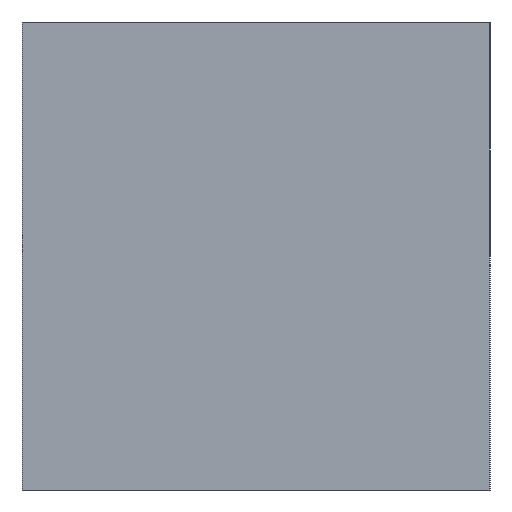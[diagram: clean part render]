
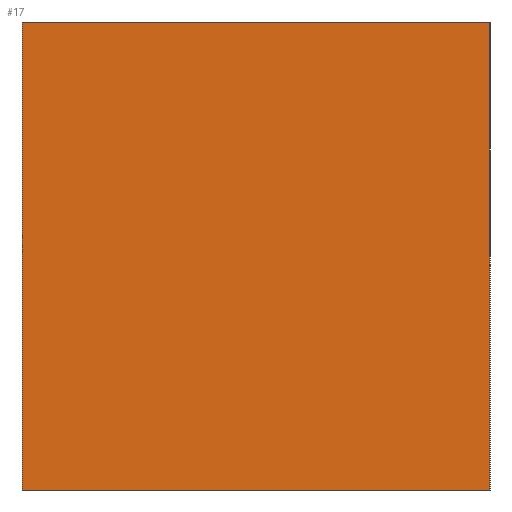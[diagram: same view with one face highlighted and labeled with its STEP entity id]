
A CAD part, left-side view. The second image highlights one B-rep face of the part: STEP entity #17.
In plain terms, the highlighted planar face has unit normal (-1, 0, 0).
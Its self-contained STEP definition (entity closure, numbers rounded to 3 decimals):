
#17 = ADVANCED_FACE('',(#18),#32,.F.);
#18 = FACE_BOUND('',#19,.F.);
#19 = EDGE_LOOP('',(#20,#55,#83,#111));
#20 = ORIENTED_EDGE('',*,*,#21,.F.);
#21 = EDGE_CURVE('',#22,#24,#26,.T.);
#22 = VERTEX_POINT('',#23);
#23 = CARTESIAN_POINT('',(700.,-410.,1160.));
#24 = VERTEX_POINT('',#25);
#25 = CARTESIAN_POINT('',(700.,-410.,1280.));
#26 = SURFACE_CURVE('',#27,(#31,#43),.PCURVE_S1.);
#27 = LINE('',#28,#29);
#28 = CARTESIAN_POINT('',(700.,-410.,1160.));
#29 = VECTOR('',#30,1.);
#30 = DIRECTION('',(0.,0.,1.));
#31 = PCURVE('',#32,#37);
#32 = PLANE('',#33);
#33 = AXIS2_PLACEMENT_3D('',#34,#35,#36);
#34 = CARTESIAN_POINT('',(700.,-410.,1160.));
#35 = DIRECTION('',(1.,0.,-0.));
#36 = DIRECTION('',(0.,0.,1.));
#37 = DEFINITIONAL_REPRESENTATION('',(#38),#42);
#38 = LINE('',#39,#40);
#39 = CARTESIAN_POINT('',(0.,0.));
#40 = VECTOR('',#41,1.);
#41 = DIRECTION('',(1.,0.));
#42 = ( GEOMETRIC_REPRESENTATION_CONTEXT(2) 
PARAMETRIC_REPRESENTATION_CONTEXT() REPRESENTATION_CONTEXT('2D SPACE',''
  ) );
#43 = PCURVE('',#44,#49);
#44 = PLANE('',#45);
#45 = AXIS2_PLACEMENT_3D('',#46,#47,#48);
#46 = CARTESIAN_POINT('',(700.,-410.,1160.));
#47 = DIRECTION('',(-0.,1.,0.));
#48 = DIRECTION('',(0.,0.,1.));
#49 = DEFINITIONAL_REPRESENTATION('',(#50),#54);
#50 = LINE('',#51,#52);
#51 = CARTESIAN_POINT('',(0.,0.));
#52 = VECTOR('',#53,1.);
#53 = DIRECTION('',(1.,0.));
#54 = ( GEOMETRIC_REPRESENTATION_CONTEXT(2) 
PARAMETRIC_REPRESENTATION_CONTEXT() REPRESENTATION_CONTEXT('2D SPACE',''
  ) );
#55 = ORIENTED_EDGE('',*,*,#56,.T.);
#56 = EDGE_CURVE('',#22,#57,#59,.T.);
#57 = VERTEX_POINT('',#58);
#58 = CARTESIAN_POINT('',(700.,-290.,1160.));
#59 = SURFACE_CURVE('',#60,(#64,#71),.PCURVE_S1.);
#60 = LINE('',#61,#62);
#61 = CARTESIAN_POINT('',(700.,-410.,1160.));
#62 = VECTOR('',#63,1.);
#63 = DIRECTION('',(-0.,1.,0.));
#64 = PCURVE('',#32,#65);
#65 = DEFINITIONAL_REPRESENTATION('',(#66),#70);
#66 = LINE('',#67,#68);
#67 = CARTESIAN_POINT('',(0.,0.));
#68 = VECTOR('',#69,1.);
#69 = DIRECTION('',(0.,-1.));
#70 = ( GEOMETRIC_REPRESENTATION_CONTEXT(2) 
PARAMETRIC_REPRESENTATION_CONTEXT() REPRESENTATION_CONTEXT('2D SPACE',''
  ) );
#71 = PCURVE('',#72,#77);
#72 = PLANE('',#73);
#73 = AXIS2_PLACEMENT_3D('',#74,#75,#76);
#74 = CARTESIAN_POINT('',(700.,-410.,1160.));
#75 = DIRECTION('',(0.,0.,1.));
#76 = DIRECTION('',(1.,0.,-0.));
#77 = DEFINITIONAL_REPRESENTATION('',(#78),#82);
#78 = LINE('',#79,#80);
#79 = CARTESIAN_POINT('',(0.,0.));
#80 = VECTOR('',#81,1.);
#81 = DIRECTION('',(0.,1.));
#82 = ( GEOMETRIC_REPRESENTATION_CONTEXT(2) 
PARAMETRIC_REPRESENTATION_CONTEXT() REPRESENTATION_CONTEXT('2D SPACE',''
  ) );
#83 = ORIENTED_EDGE('',*,*,#84,.T.);
#84 = EDGE_CURVE('',#57,#85,#87,.T.);
#85 = VERTEX_POINT('',#86);
#86 = CARTESIAN_POINT('',(700.,-290.,1280.));
#87 = SURFACE_CURVE('',#88,(#92,#99),.PCURVE_S1.);
#88 = LINE('',#89,#90);
#89 = CARTESIAN_POINT('',(700.,-290.,1160.));
#90 = VECTOR('',#91,1.);
#91 = DIRECTION('',(0.,0.,1.));
#92 = PCURVE('',#32,#93);
#93 = DEFINITIONAL_REPRESENTATION('',(#94),#98);
#94 = LINE('',#95,#96);
#95 = CARTESIAN_POINT('',(0.,-120.));
#96 = VECTOR('',#97,1.);
#97 = DIRECTION('',(1.,0.));
#98 = ( GEOMETRIC_REPRESENTATION_CONTEXT(2) 
PARAMETRIC_REPRESENTATION_CONTEXT() REPRESENTATION_CONTEXT('2D SPACE',''
  ) );
#99 = PCURVE('',#100,#105);
#100 = PLANE('',#101);
#101 = AXIS2_PLACEMENT_3D('',#102,#103,#104);
#102 = CARTESIAN_POINT('',(700.,-290.,1160.));
#103 = DIRECTION('',(-0.,1.,0.));
#104 = DIRECTION('',(0.,0.,1.));
#105 = DEFINITIONAL_REPRESENTATION('',(#106),#110);
#106 = LINE('',#107,#108);
#107 = CARTESIAN_POINT('',(0.,0.));
#108 = VECTOR('',#109,1.);
#109 = DIRECTION('',(1.,0.));
#110 = ( GEOMETRIC_REPRESENTATION_CONTEXT(2) 
PARAMETRIC_REPRESENTATION_CONTEXT() REPRESENTATION_CONTEXT('2D SPACE',''
  ) );
#111 = ORIENTED_EDGE('',*,*,#112,.F.);
#112 = EDGE_CURVE('',#24,#85,#113,.T.);
#113 = SURFACE_CURVE('',#114,(#118,#125),.PCURVE_S1.);
#114 = LINE('',#115,#116);
#115 = CARTESIAN_POINT('',(700.,-410.,1280.));
#116 = VECTOR('',#117,1.);
#117 = DIRECTION('',(-0.,1.,0.));
#118 = PCURVE('',#32,#119);
#119 = DEFINITIONAL_REPRESENTATION('',(#120),#124);
#120 = LINE('',#121,#122);
#121 = CARTESIAN_POINT('',(120.,0.));
#122 = VECTOR('',#123,1.);
#123 = DIRECTION('',(0.,-1.));
#124 = ( GEOMETRIC_REPRESENTATION_CONTEXT(2) 
PARAMETRIC_REPRESENTATION_CONTEXT() REPRESENTATION_CONTEXT('2D SPACE',''
  ) );
#125 = PCURVE('',#126,#131);
#126 = PLANE('',#127);
#127 = AXIS2_PLACEMENT_3D('',#128,#129,#130);
#128 = CARTESIAN_POINT('',(700.,-410.,1280.));
#129 = DIRECTION('',(0.,0.,1.));
#130 = DIRECTION('',(1.,0.,-0.));
#131 = DEFINITIONAL_REPRESENTATION('',(#132),#136);
#132 = LINE('',#133,#134);
#133 = CARTESIAN_POINT('',(0.,0.));
#134 = VECTOR('',#135,1.);
#135 = DIRECTION('',(0.,1.));
#136 = ( GEOMETRIC_REPRESENTATION_CONTEXT(2) 
PARAMETRIC_REPRESENTATION_CONTEXT() REPRESENTATION_CONTEXT('2D SPACE',''
  ) );
